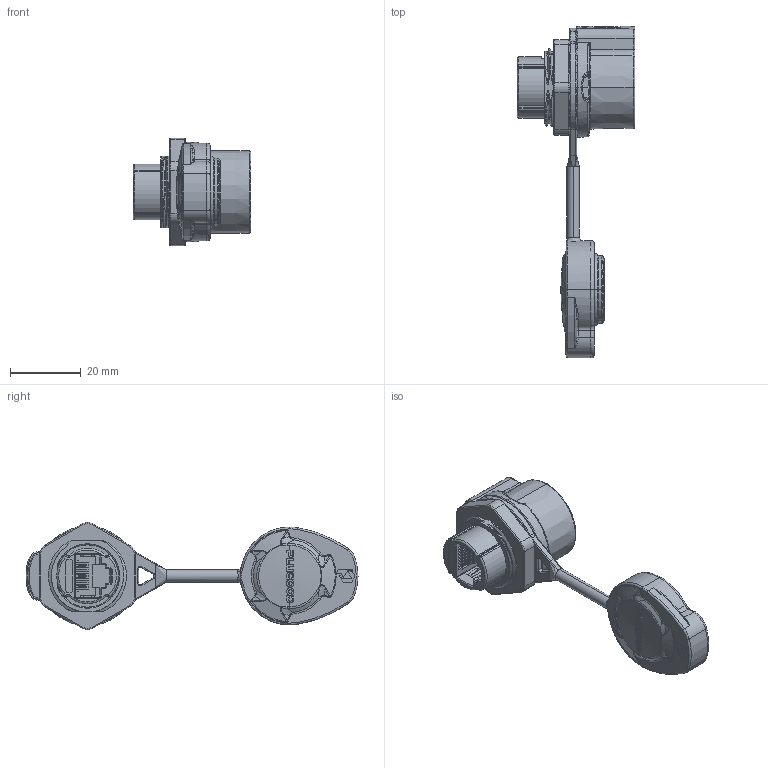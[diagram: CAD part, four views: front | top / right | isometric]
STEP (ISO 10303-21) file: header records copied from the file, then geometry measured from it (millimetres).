
FILE_DESCRIPTION (( 'STEP AP203' ), '1' );
FILE_NAME ('PLG20 RJ45等謂脣釱.STEP', '2025-10-23T10:06:00', ( '' ), ( '' ), 'SwSTEP 2.0', 'SolidWorks 2024', '' );
FILE_SCHEMA (( 'CONFIG_CONTROL_DESIGN' ));
Length unit declared in the file: millimetre
Products named in the file (1): PLG20 RJ45单孔插座
Bounding box: 33.2 x 93.63 x 30.25 mm (x, y, z)
Volume: 14951.9 mm3; surface area: 12041.8 mm2
Topology: 1 solids, 1 shells, 1584 faces, 4150 edges, 2566 vertices
Faces by surface type: plane 742, cylinder 317, bspline 250, torus 158, cone 101, sphere 16
Entity records: 62465 total; most frequent: CARTESIAN_POINT 25449, ORIENTED_EDGE 8272, DIRECTION 6994, EDGE_CURVE 4136, VERTEX_POINT 2566, AXIS2_PLACEMENT_3D 2401, LINE 2192, VECTOR 2192
